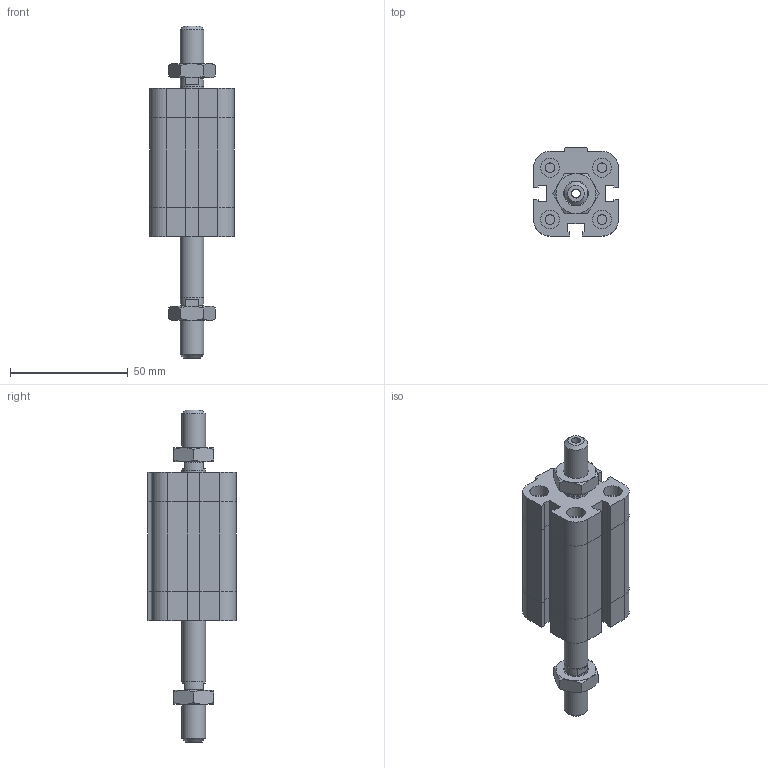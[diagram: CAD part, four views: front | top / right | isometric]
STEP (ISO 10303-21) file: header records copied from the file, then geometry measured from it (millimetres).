
FILE_DESCRIPTION((''),'2;1');
FILE_NAME('I:\Area Tecnica\Disegni\VARIE-3D\Componenti\EUROPE\15##_###_####_05_#\1581_20_0025_05_1.iam.stp','2009-04-20T14:59:52',(''),(''),'Autodesk Inventor 2009','Autodesk Inventor 2009','');
FILE_SCHEMA(('AUTOMOTIVE_DESIGN { 1 0 10303 214 1 1 1 1 }'));
Length unit declared in the file: millimetre
Products named in the file (4): 1581_20_0025_05_1; 1581_20_0025_03_1_C; 1561_20_0025_05_1_S; DBFM10
Assembly tree (4 placements, depth 2):
  1581_20_0025_05_1
    1581_20_0025_03_1_C
    1561_20_0025_05_1_S
    DBFM10  x2
Bounding box: 36 x 37.5 x 141 mm (x, y, z)
Volume: 76492.5 mm3; surface area: 25843.9 mm2
Topology: 4 solids, 4 shells, 223 faces, 486 edges, 291 vertices
Faces by surface type: plane 129, cone 35, bspline 34, cylinder 25
Full cylindrical faces by diameter (mm): 4.134 x4, 7.9 x1, 8 x4, 9.8 x2, 10 x2
Entity records: 5497 total; most frequent: CARTESIAN_POINT 1244, DIRECTION 806, ORIENTED_EDGE 776, EDGE_CURVE 388, AXIS2_PLACEMENT_3D 274, EDGE_LOOP 262, VECTOR 258, LINE 258
